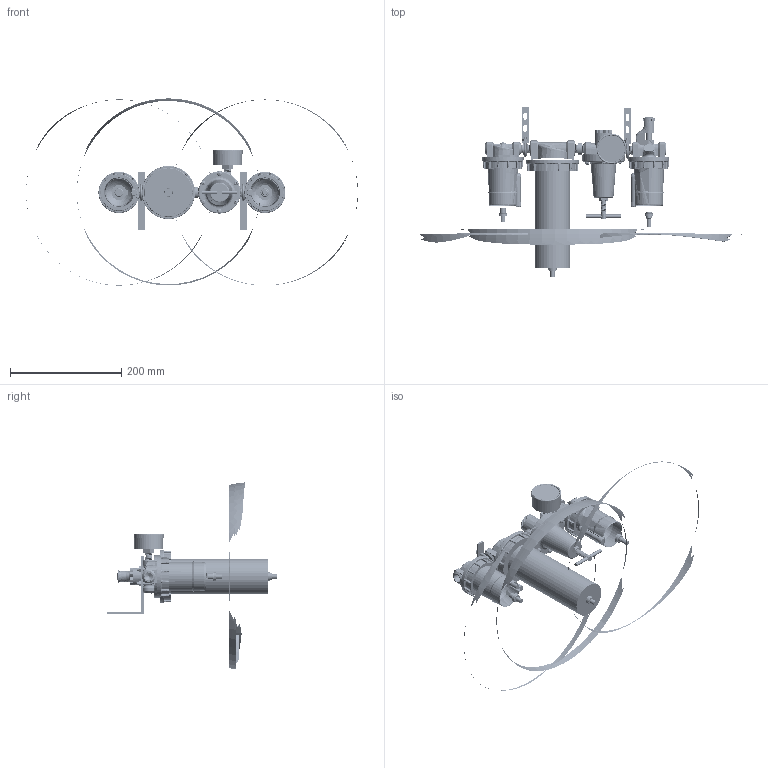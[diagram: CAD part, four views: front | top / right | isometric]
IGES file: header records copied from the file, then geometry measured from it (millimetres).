
Start section: SolidWorks IGES file using analytic representation for surfaces
Global section: file name: C:\Users\Toshiba\Desktop\A728#W#-03YB#.IGS; native system: SolidWorks 2014; preprocessor: SolidWorks 2014; author: Toshiba; date: 160216.103653; units: millimetre
Bounding box: 598.19 x 306.51 x 337.41 mm (x, y, z)
Surface area: 267508.8 mm2 (no closed solid volume)
Topology: 0 solids, 0 shells, 2159 faces, 28215 edges, 28178 vertices
Faces by surface type: bspline 1189, revolution 970
